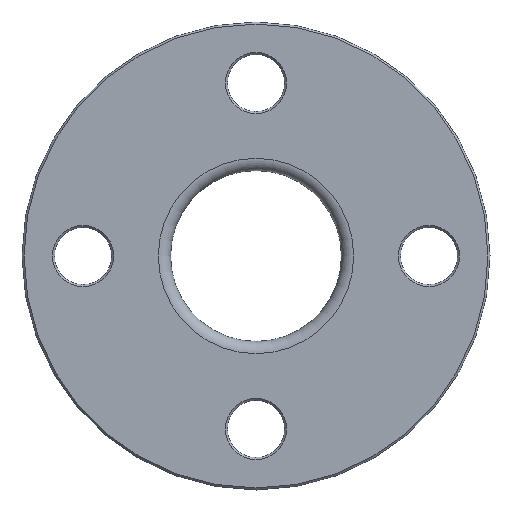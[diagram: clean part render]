
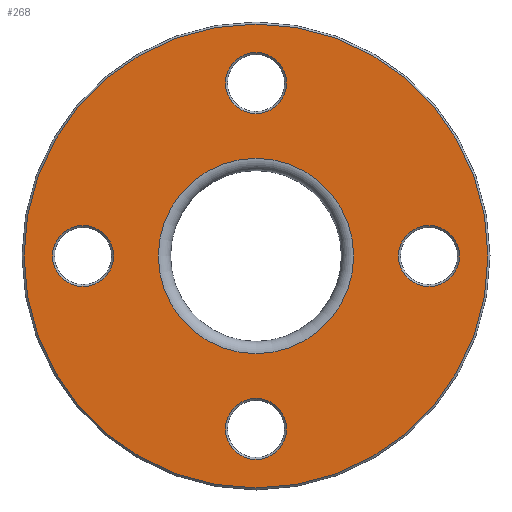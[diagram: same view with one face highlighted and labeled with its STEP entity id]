
A CAD part, front view. The second image highlights one B-rep face of the part: STEP entity #268.
In plain terms, the highlighted planar face has unit normal (0, -1, 0).
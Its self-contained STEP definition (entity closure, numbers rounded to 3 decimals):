
#23=PLANE('',#320);
#62=ORIENTED_EDGE('',*,*,#101,.T.);
#63=ORIENTED_EDGE('',*,*,#102,.T.);
#64=ORIENTED_EDGE('',*,*,#84,.T.);
#65=ORIENTED_EDGE('',*,*,#88,.T.);
#66=ORIENTED_EDGE('',*,*,#92,.T.);
#67=ORIENTED_EDGE('',*,*,#103,.T.);
#84=EDGE_CURVE('',#108,#108,#132,.T.);
#88=EDGE_CURVE('',#112,#112,#136,.T.);
#92=EDGE_CURVE('',#116,#116,#140,.T.);
#101=EDGE_CURVE('',#125,#125,#149,.F.);
#102=EDGE_CURVE('',#126,#126,#150,.T.);
#103=EDGE_CURVE('',#127,#127,#151,.T.);
#108=VERTEX_POINT('',#431);
#112=VERTEX_POINT('',#442);
#116=VERTEX_POINT('',#453);
#125=VERTEX_POINT('',#476);
#126=VERTEX_POINT('',#478);
#127=VERTEX_POINT('',#480);
#132=CIRCLE('',#293,7.5);
#136=CIRCLE('',#300,7.5);
#140=CIRCLE('',#307,7.5);
#149=CIRCLE('',#321,57.);
#150=CIRCLE('',#322,24.);
#151=CIRCLE('',#323,7.5);
#182=EDGE_LOOP('',(#62));
#183=EDGE_LOOP('',(#63));
#184=EDGE_LOOP('',(#64));
#185=EDGE_LOOP('',(#65));
#186=EDGE_LOOP('',(#66));
#187=EDGE_LOOP('',(#67));
#230=FACE_BOUND('',#182,.T.);
#231=FACE_BOUND('',#183,.T.);
#232=FACE_BOUND('',#184,.T.);
#233=FACE_BOUND('',#185,.T.);
#234=FACE_BOUND('',#186,.T.);
#235=FACE_BOUND('',#187,.T.);
#268=ADVANCED_FACE('',(#230,#231,#232,#233,#234,#235),#23,.F.);
#293=AXIS2_PLACEMENT_3D('',#430,#343,#344);
#300=AXIS2_PLACEMENT_3D('',#441,#357,#358);
#307=AXIS2_PLACEMENT_3D('',#452,#371,#372);
#320=AXIS2_PLACEMENT_3D('',#474,#397,#398);
#321=AXIS2_PLACEMENT_3D('',#475,#399,#400);
#322=AXIS2_PLACEMENT_3D('',#477,#401,#402);
#323=AXIS2_PLACEMENT_3D('',#479,#403,#404);
#343=DIRECTION('',(0.,1.,0.));
#344=DIRECTION('',(0.,0.,1.));
#357=DIRECTION('',(0.,1.,0.));
#358=DIRECTION('',(-1.,0.,0.));
#371=DIRECTION('',(0.,1.,0.));
#372=DIRECTION('',(0.,0.,-1.));
#397=DIRECTION('',(0.,1.,0.));
#398=DIRECTION('',(0.,0.,1.));
#399=DIRECTION('',(0.,1.,0.));
#400=DIRECTION('',(0.,0.,1.));
#401=DIRECTION('',(0.,1.,0.));
#402=DIRECTION('',(0.,0.,1.));
#403=DIRECTION('',(0.,1.,0.));
#404=DIRECTION('',(1.,0.,0.));
#430=CARTESIAN_POINT('',(-42.5,0.,0.));
#431=CARTESIAN_POINT('',(-42.5,0.,7.5));
#441=CARTESIAN_POINT('',(0.,0.,-42.5));
#442=CARTESIAN_POINT('',(-7.5,0.,-42.5));
#452=CARTESIAN_POINT('',(42.5,0.,0.));
#453=CARTESIAN_POINT('',(42.5,0.,-7.5));
#474=CARTESIAN_POINT('',(0.,0.,0.));
#475=CARTESIAN_POINT('',(0.,0.,0.));
#476=CARTESIAN_POINT('',(0.,0.,57.));
#477=CARTESIAN_POINT('',(0.,0.,0.));
#478=CARTESIAN_POINT('',(0.,0.,24.));
#479=CARTESIAN_POINT('',(0.,0.,42.5));
#480=CARTESIAN_POINT('',(7.5,0.,42.5));
